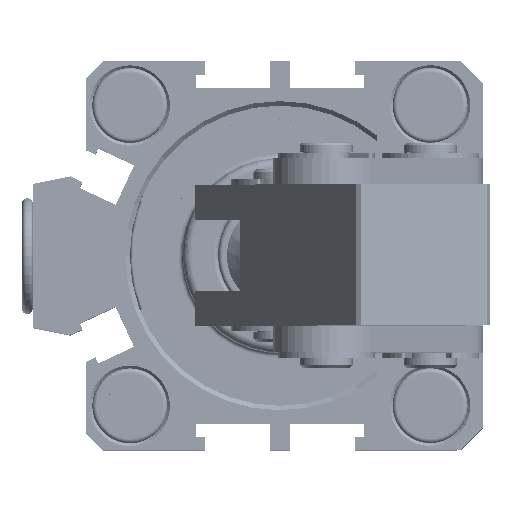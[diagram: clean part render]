
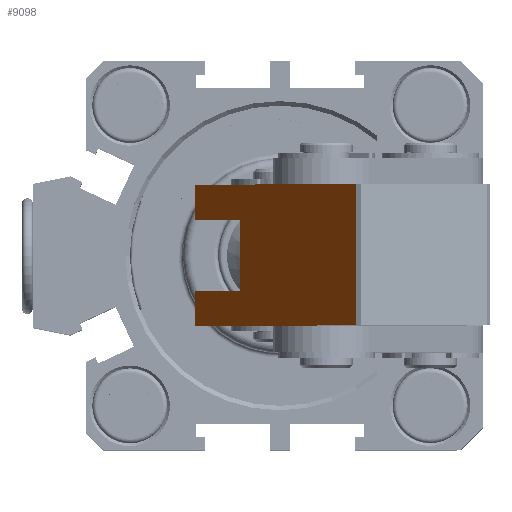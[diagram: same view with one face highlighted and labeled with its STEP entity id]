
A CAD part, top view. The second image highlights one B-rep face of the part: STEP entity #9098.
In plain terms, the highlighted planar face has unit normal (-0.951, 0, 0.308) as drawn and (0, -1, 0) by its records, which use the part's own axes.
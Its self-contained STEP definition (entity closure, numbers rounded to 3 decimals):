
#622=PLANE('',#10046);
#1060=FACE_OUTER_BOUND('',#1578,.T.);
#1578=EDGE_LOOP('',(#6581,#6582,#6583,#6584,#6585,#6586,#6587,#6588));
#2104=LINE('',#14167,#2674);
#2115=LINE('',#14190,#2685);
#2126=LINE('',#14211,#2696);
#2129=LINE('',#14217,#2699);
#2130=LINE('',#14221,#2700);
#2131=LINE('',#14222,#2701);
#2132=LINE('',#14223,#2702);
#2133=LINE('',#14224,#2703);
#2674=VECTOR('',#11426,1000.);
#2685=VECTOR('',#11443,1000.);
#2696=VECTOR('',#11456,1000.);
#2699=VECTOR('',#11461,1000.);
#2700=VECTOR('',#11464,1000.);
#2701=VECTOR('',#11465,1000.);
#2702=VECTOR('',#11466,1000.);
#2703=VECTOR('',#11467,1000.);
#3943=VERTEX_POINT('',#14165);
#3944=VERTEX_POINT('',#14166);
#3952=VERTEX_POINT('',#14187);
#3953=VERTEX_POINT('',#14189);
#3962=VERTEX_POINT('',#14209);
#3964=VERTEX_POINT('',#14215);
#3965=VERTEX_POINT('',#14219);
#3966=VERTEX_POINT('',#14220);
#4973=EDGE_CURVE('',#3943,#3944,#2104,.T.);
#4984=EDGE_CURVE('',#3952,#3953,#2115,.T.);
#4995=EDGE_CURVE('',#3944,#3962,#2126,.T.);
#4998=EDGE_CURVE('',#3952,#3964,#2129,.T.);
#4999=EDGE_CURVE('',#3965,#3966,#2130,.T.);
#5000=EDGE_CURVE('',#3943,#3965,#2131,.T.);
#5001=EDGE_CURVE('',#3953,#3962,#2132,.T.);
#5002=EDGE_CURVE('',#3966,#3964,#2133,.T.);
#6581=ORIENTED_EDGE('',*,*,#4999,.F.);
#6582=ORIENTED_EDGE('',*,*,#5000,.F.);
#6583=ORIENTED_EDGE('',*,*,#4973,.T.);
#6584=ORIENTED_EDGE('',*,*,#4995,.T.);
#6585=ORIENTED_EDGE('',*,*,#5001,.F.);
#6586=ORIENTED_EDGE('',*,*,#4984,.F.);
#6587=ORIENTED_EDGE('',*,*,#4998,.T.);
#6588=ORIENTED_EDGE('',*,*,#5002,.F.);
#9098=ADVANCED_FACE('',(#1060),#622,.F.);
#10046=AXIS2_PLACEMENT_3D('',#14218,#11462,#11463);
#11426=DIRECTION('',(0.,0.,-1.));
#11443=DIRECTION('',(1.,0.,0.));
#11456=DIRECTION('',(1.,0.,0.));
#11461=DIRECTION('',(0.,0.,-1.));
#11462=DIRECTION('center_axis',(0.,1.,0.));
#11463=DIRECTION('ref_axis',(0.,0.,1.));
#11464=DIRECTION('',(0.,0.,1.));
#11465=DIRECTION('',(1.,0.,0.));
#11466=DIRECTION('',(0.,0.,-1.));
#11467=DIRECTION('',(-1.,0.,0.));
#14165=CARTESIAN_POINT('',(-14182.94,2054.79,4.));
#14166=CARTESIAN_POINT('',(-14182.94,2054.79,0.));
#14167=CARTESIAN_POINT('',(-14182.94,2054.79,16.));
#14187=CARTESIAN_POINT('',(-14182.94,2054.79,16.));
#14189=CARTESIAN_POINT('',(-14123.94,2054.79,16.));
#14190=CARTESIAN_POINT('',(-14123.94,2054.79,16.));
#14209=CARTESIAN_POINT('',(-14123.94,2054.79,0.));
#14211=CARTESIAN_POINT('',(-14123.94,2054.79,0.));
#14215=CARTESIAN_POINT('',(-14182.94,2054.79,12.));
#14217=CARTESIAN_POINT('',(-14182.94,2054.79,16.));
#14218=CARTESIAN_POINT('Origin',(-14123.94,2054.79,16.));
#14219=CARTESIAN_POINT('',(-14166.44,2054.79,4.));
#14220=CARTESIAN_POINT('',(-14166.44,2054.79,12.));
#14221=CARTESIAN_POINT('',(-14166.44,2054.79,8.));
#14222=CARTESIAN_POINT('',(-14166.44,2054.79,4.));
#14223=CARTESIAN_POINT('',(-14123.94,2054.79,16.));
#14224=CARTESIAN_POINT('',(-14186.559,2054.79,12.));
